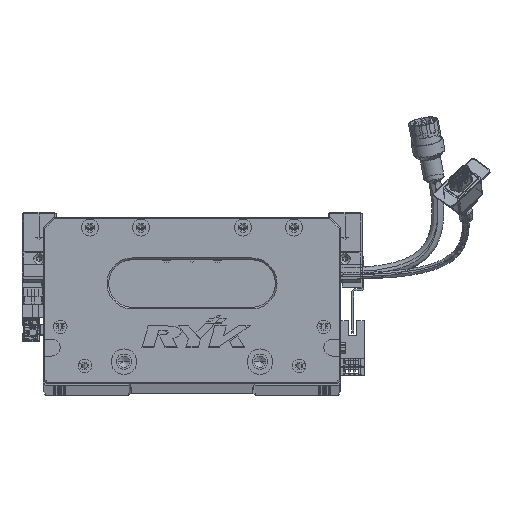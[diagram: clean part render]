
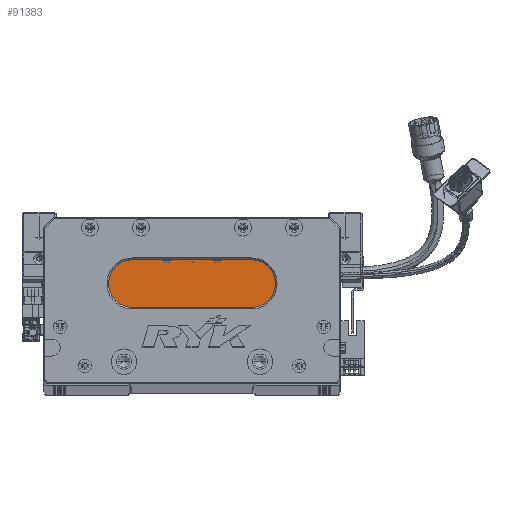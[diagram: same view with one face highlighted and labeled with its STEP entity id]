
A CAD part, top view. The second image highlights one B-rep face of the part: STEP entity #91383.
In plain terms, the highlighted planar face has unit normal (0, 0, 1) as drawn and (0, 0, -1) by its records, which use the part's own axes.
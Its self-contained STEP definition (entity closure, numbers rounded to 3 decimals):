
#1479 = AXIS2_PLACEMENT_3D ( 'NONE', #29409, #107523, #118870 ) ;
#12557 = CIRCLE ( 'NONE', #62896, 14. ) ;
#13516 = LINE ( 'NONE', #56803, #100182 ) ;
#14567 = CARTESIAN_POINT ( 'NONE',  ( 52.5, 59., 18. ) ) ;
#23145 = DIRECTION ( 'NONE',  ( -1., 0., 0. ) ) ;
#23642 = PLANE ( 'NONE',  #136905 ) ;
#27607 = EDGE_CURVE ( 'NONE', #126597, #33127, #112382, .T. ) ;
#29409 = CARTESIAN_POINT ( 'NONE',  ( 122.5, 59., 18. ) ) ;
#29442 = CARTESIAN_POINT ( 'NONE',  ( 122.5, 45., 18. ) ) ;
#30362 = EDGE_CURVE ( 'NONE', #41176, #99840, #63986, .T. ) ;
#33127 = VERTEX_POINT ( 'NONE', #144558 ) ;
#34496 = EDGE_CURVE ( 'NONE', #99840, #65365, #125507, .T. ) ;
#41176 = VERTEX_POINT ( 'NONE', #72899 ) ;
#46772 = DIRECTION ( 'NONE',  ( -1., 0., 0. ) ) ;
#51168 = AXIS2_PLACEMENT_3D ( 'NONE', #66911, #112274, #91082 ) ;
#51301 = ORIENTED_EDGE ( 'NONE', *, *, #30362, .T. ) ;
#56803 = CARTESIAN_POINT ( 'NONE',  ( 122.5, 45., 18. ) ) ;
#58387 = CARTESIAN_POINT ( 'NONE',  ( 122.5, 73., 18. ) ) ;
#62896 = AXIS2_PLACEMENT_3D ( 'NONE', #14567, #70518, #46772 ) ;
#63986 = LINE ( 'NONE', #58387, #108162 ) ;
#65365 = VERTEX_POINT ( 'NONE', #29442 ) ;
#66911 = CARTESIAN_POINT ( 'NONE',  ( 52.5, 59., 18. ) ) ;
#69177 = CARTESIAN_POINT ( 'NONE',  ( 52.5, 45., 18. ) ) ;
#70518 = DIRECTION ( 'NONE',  ( 0., 0., -1. ) ) ;
#71590 = ORIENTED_EDGE ( 'NONE', *, *, #34496, .T. ) ;
#72899 = CARTESIAN_POINT ( 'NONE',  ( 52.5, 73., 18. ) ) ;
#73370 = ORIENTED_EDGE ( 'NONE', *, *, #27607, .T. ) ;
#76998 = ORIENTED_EDGE ( 'NONE', *, *, #108041, .T. ) ;
#78565 = DIRECTION ( 'NONE',  ( 0., 0., -1. ) ) ;
#79035 = DIRECTION ( 'NONE',  ( -1., 0., 0. ) ) ;
#91082 = DIRECTION ( 'NONE',  ( -1., 0., 0. ) ) ;
#91383 = ADVANCED_FACE ( 'NONE', ( #130741 ), #23642, .T. ) ;
#99840 = VERTEX_POINT ( 'NONE', #111523 ) ;
#100182 = VECTOR ( 'NONE', #79035, 1000. ) ;
#105492 = EDGE_LOOP ( 'NONE', ( #71590, #76998, #73370, #120088, #51301 ) ) ;
#106736 = DIRECTION ( 'NONE',  ( 1., 0., 0. ) ) ;
#107523 = DIRECTION ( 'NONE',  ( 0., 0., -1. ) ) ;
#108041 = EDGE_CURVE ( 'NONE', #65365, #126597, #13516, .T. ) ;
#108162 = VECTOR ( 'NONE', #106736, 1000. ) ;
#111523 = CARTESIAN_POINT ( 'NONE',  ( 122.5, 73., 18. ) ) ;
#112110 = CARTESIAN_POINT ( 'NONE',  ( 122.5, 59., 18. ) ) ;
#112274 = DIRECTION ( 'NONE',  ( 0., 0., -1. ) ) ;
#112382 = CIRCLE ( 'NONE', #51168, 14. ) ;
#112686 = EDGE_CURVE ( 'NONE', #33127, #41176, #12557, .T. ) ;
#118870 = DIRECTION ( 'NONE',  ( -1., 0., 0. ) ) ;
#120088 = ORIENTED_EDGE ( 'NONE', *, *, #112686, .T. ) ;
#125507 = CIRCLE ( 'NONE', #1479, 14. ) ;
#126597 = VERTEX_POINT ( 'NONE', #69177 ) ;
#130741 = FACE_OUTER_BOUND ( 'NONE', #105492, .T. ) ;
#136905 = AXIS2_PLACEMENT_3D ( 'NONE', #112110, #78565, #23145 ) ;
#144558 = CARTESIAN_POINT ( 'NONE',  ( 38.5, 59., 18. ) ) ;
